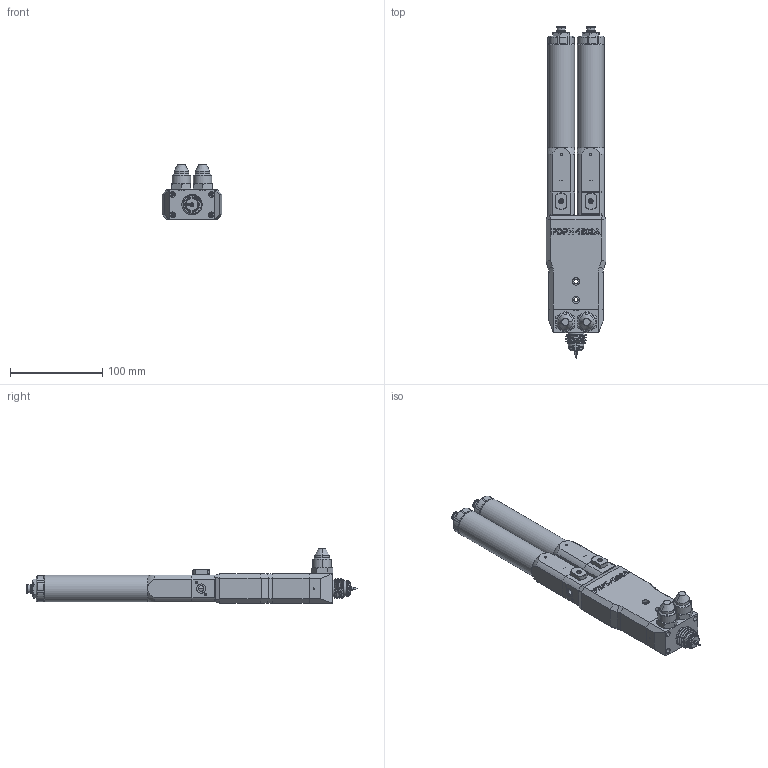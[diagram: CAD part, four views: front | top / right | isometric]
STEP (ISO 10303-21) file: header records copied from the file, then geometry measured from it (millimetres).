
FILE_DESCRIPTION (( 'STEP AP214' ), '1' );
FILE_NAME ('PDPM-1500-150CB.STEP', '2024-10-11T12:33:04', ( '' ), ( '' ), 'SwSTEP 2.0', 'SolidWorks 2024', '' );
FILE_SCHEMA (( 'AUTOMOTIVE_DESIGN' ));
Length unit declared in the file: millimetre
Products named in the file (1): PDPM-1500-150CB
Bounding box: 65 x 360 x 59.3 mm (x, y, z)
Volume: 523852.5 mm3; surface area: 122447.7 mm2
Topology: 13 solids, 13 shells, 1507 faces, 3766 edges, 2387 vertices
Faces by surface type: plane 757, cylinder 433, cone 286, torus 12, bspline 11, sphere 8
Full cylindrical faces by diameter (mm): 29 x2
Entity records: 51665 total; most frequent: CARTESIAN_POINT 15737, ORIENTED_EDGE 7460, DIRECTION 7379, EDGE_CURVE 3730, AXIS2_PLACEMENT_3D 2641, VERTEX_POINT 2387, LINE 2097, VECTOR 2097
